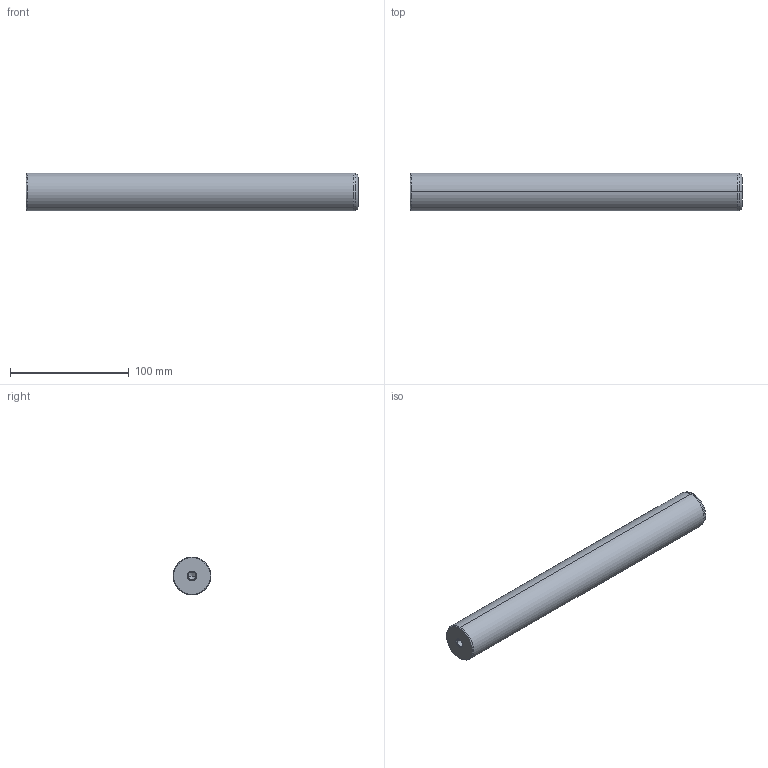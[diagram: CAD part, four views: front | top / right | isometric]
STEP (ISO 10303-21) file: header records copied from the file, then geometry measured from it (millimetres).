
FILE_DESCRIPTION(('CATIA V5 STEP Exchange'),'2;1');
FILE_NAME('C:\Users\Utente\Desktop\IO LAVORO\3D X SITO CF\X SITO\720\720-32x280.stp','2021-01-01T12:15:09+00:00',('none'),('none'),'CATIA Version 5 Release 20 GA (IN-10)','CATIA V5 STEP AP203','none');
FILE_SCHEMA(('CONFIG_CONTROL_DESIGN'));
Length unit declared in the file: millimetre
Products named in the file (1): 720-32x280
Bounding box: 280 x 32 x 32 mm (x, y, z)
Volume: 223136.9 mm3; surface area: 30541.4 mm2
Topology: 1 solids, 1 shells, 22 faces, 56 edges, 34 vertices
Faces by surface type: cone 12, cylinder 6, plane 2, torus 2
Entity records: 755 total; most frequent: CARTESIAN_POINT 216, ORIENTED_EDGE 104, DIRECTION 89, EDGE_CURVE 52, AXIS2_PLACEMENT_3D 50, VERTEX_POINT 34, CIRCLE 27, EDGE_LOOP 24
